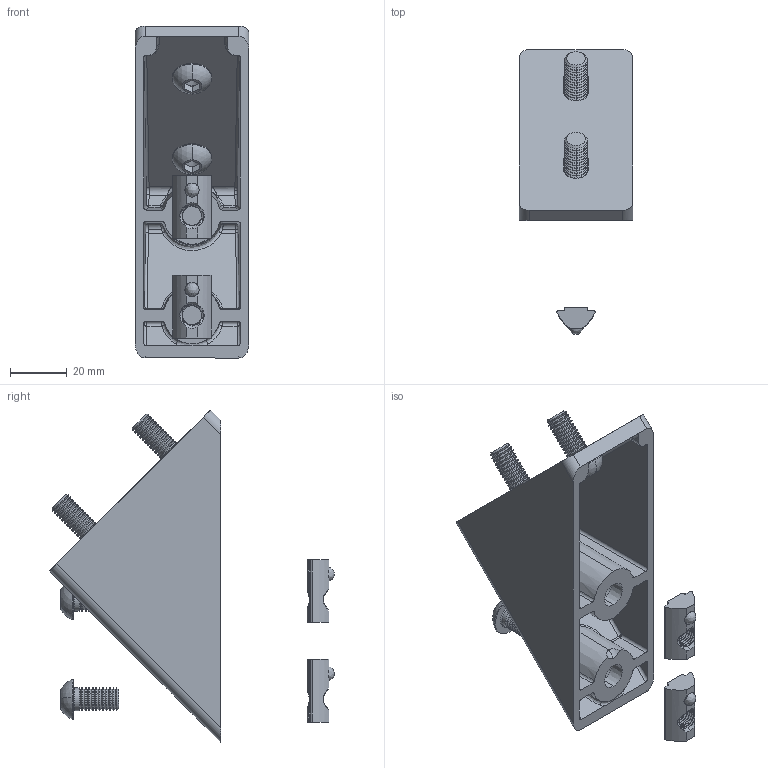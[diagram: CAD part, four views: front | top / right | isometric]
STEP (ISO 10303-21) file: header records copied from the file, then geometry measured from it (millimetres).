
FILE_DESCRIPTION (( 'STEP AP203' ), '1' );
FILE_NAME ('351310_45° Verbinder 40x80 mit Bef.-Satz.step', '2023-09-06T08:25:12', ( '' ), ( '' ), 'SwSTEP 2.0', 'SolidWorks 2021', '' );
FILE_SCHEMA (( 'CONFIG_CONTROL_DESIGN' ));
Length unit declared in the file: millimetre
Products named in the file (5): 99900969 Winkelverbinder 8 80x40 45°40; 355050 Nutenstein 8 M8 einschwenkbar mit Kugel und Steg; 351310_45° Verbinder 40x80 mit Bef.-Satz; 370170 Schraube, Linsenkopf, ISO 7380, M8x16, 10.9 verzinkt; 370190 Schraube, Linsenkopf, ISO 7380, M8x20, 10.9 verzinkt
Assembly tree (7 placements, depth 2):
  351310_45° Verbinder 40x80 mit Bef.-Satz
    99900969 Winkelverbinder 8 80x40 45°40
    370170 Schraube, Linsenkopf, ISO 7380, M8x16, 10.9 verzinkt  x2
    370190 Schraube, Linsenkopf, ISO 7380, M8x20, 10.9 verzinkt  x2
    355050 Nutenstein 8 M8 einschwenkbar mit Kugel und Steg  x2
Bounding box: 40 x 100.08 x 116.67 mm (x, y, z)
Volume: 60813.1 mm3; surface area: 37794 mm2
Topology: 7 solids, 9 shells, 686 faces, 1783 edges, 1112 vertices
Faces by surface type: cone 247, cylinder 226, plane 124, bspline 73, torus 8, sphere 8
Entity records: 19711 total; most frequent: CARTESIAN_POINT 9334, ORIENTED_EDGE 2154, DIRECTION 2006, EDGE_CURVE 1077, AXIS2_PLACEMENT_3D 790, VERTEX_POINT 671, EDGE_LOOP 436, LINE 426
